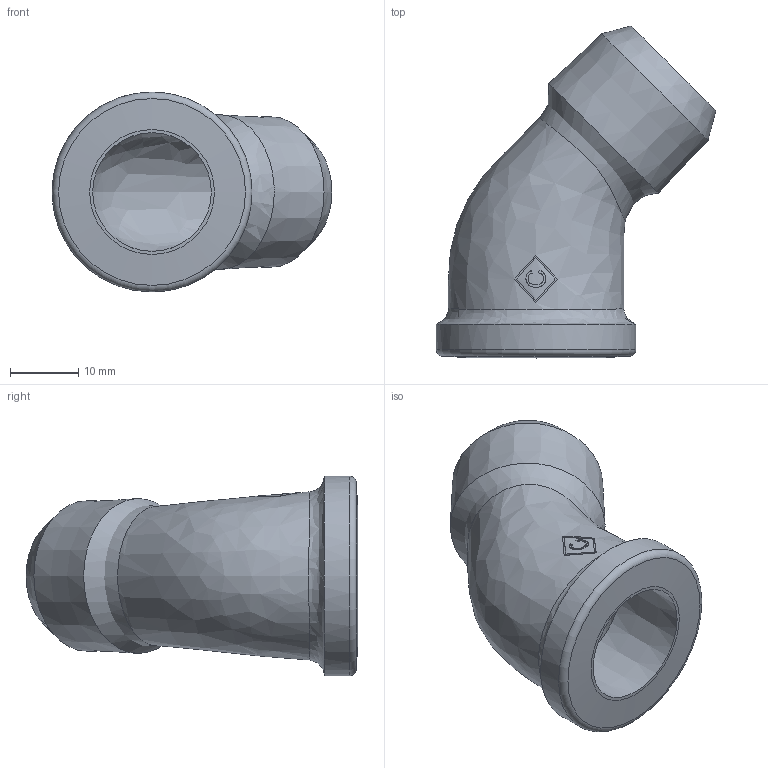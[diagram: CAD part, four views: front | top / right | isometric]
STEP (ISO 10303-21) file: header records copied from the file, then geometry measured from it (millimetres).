
FILE_DESCRIPTION((''),'2;1');
FILE_NAME('P:\Fastrack\53909_CRANE\Crane\Fig.156 45deg M and F Bend\New 0.50 inch\156-0.50.stp','2009-09-16T11:14:06',('btaylor'),(''),'Autodesk Inventor 2008','Autodesk Inventor 2008','');
FILE_SCHEMA(('AUTOMOTIVE_DESIGN { 1 0 10303 214 1 1 1 1 }'));
Length unit declared in the file: millimetre
Products named in the file (1): 156-0.50
Bounding box: 41.03 x 48.67 x 29.3 mm (x, y, z)
Volume: 10266.7 mm3; surface area: 6816.5 mm2
Topology: 1 solids, 1 shells, 40 faces, 104 edges, 70 vertices
Faces by surface type: bspline 17, plane 15, cone 6, torus 1, cylinder 1
Full cylindrical faces by diameter (mm): 29.3 x1
Entity records: 4569 total; most frequent: CARTESIAN_POINT 3713, ORIENTED_EDGE 194, DIRECTION 110, EDGE_CURVE 97, VERTEX_POINT 69, B_SPLINE_CURVE_WITH_KNOTS 57, EDGE_LOOP 52, AXIS2_PLACEMENT_3D 46
